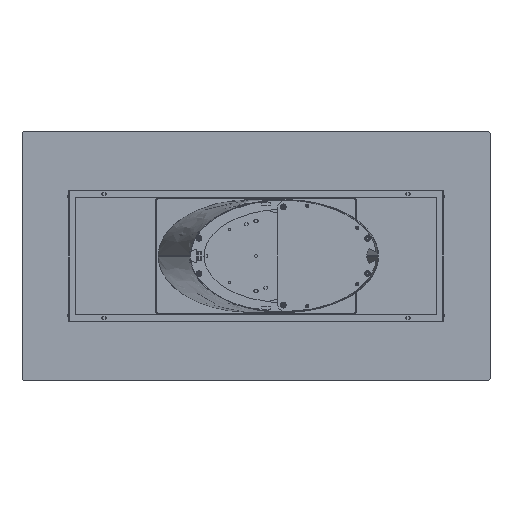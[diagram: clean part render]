
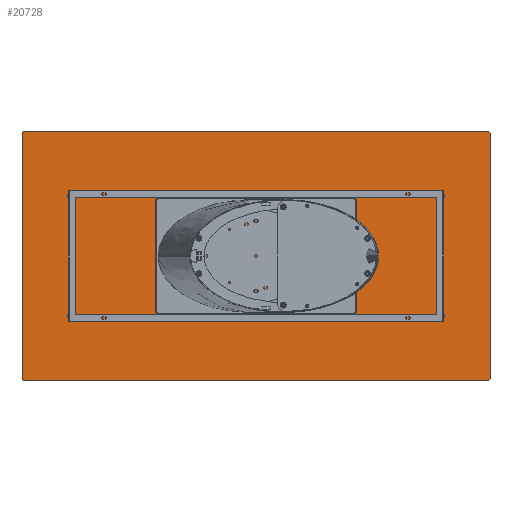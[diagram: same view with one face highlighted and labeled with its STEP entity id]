
A CAD part, front view. The second image highlights one B-rep face of the part: STEP entity #20728.
In plain terms, the highlighted planar face has unit normal (0, -1, 0).
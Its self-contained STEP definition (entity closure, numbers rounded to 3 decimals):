
#236 = VERTEX_POINT ( 'NONE', #3848 ) ;
#371 = DIRECTION ( 'NONE',  ( 0., 0., 1. ) ) ;
#914 = AXIS2_PLACEMENT_3D ( 'NONE', #20335, #9838, #22497 ) ;
#1444 = LINE ( 'NONE', #16247, #1559 ) ;
#1559 = VECTOR ( 'NONE', #19905, 1000. ) ;
#1853 = CARTESIAN_POINT ( 'NONE',  ( 995., 0., -525. ) ) ;
#2266 = VERTEX_POINT ( 'NONE', #18298 ) ;
#2764 = ORIENTED_EDGE ( 'NONE', *, *, #8703, .T. ) ;
#2922 = CIRCLE ( 'NONE', #12359, 5. ) ;
#3139 = CARTESIAN_POINT ( 'NONE',  ( 995., 0., -530. ) ) ;
#3211 = PLANE ( 'NONE',  #20136 ) ;
#3848 = CARTESIAN_POINT ( 'NONE',  ( -1000., 0., 525. ) ) ;
#4217 = CARTESIAN_POINT ( 'NONE',  ( -995., 0., 525. ) ) ;
#4964 = FACE_OUTER_BOUND ( 'NONE', #19092, .T. ) ;
#5227 = DIRECTION ( 'NONE',  ( 0., 0., 1. ) ) ;
#5534 = EDGE_CURVE ( 'NONE', #2266, #5758, #23539, .T. ) ;
#5758 = VERTEX_POINT ( 'NONE', #10025 ) ;
#5983 = CIRCLE ( 'NONE', #9428, 5. ) ;
#6425 = CARTESIAN_POINT ( 'NONE',  ( -1000., 0., -530. ) ) ;
#6970 = ORIENTED_EDGE ( 'NONE', *, *, #16775, .T. ) ;
#7504 = CARTESIAN_POINT ( 'NONE',  ( 995., 0., 530. ) ) ;
#8221 = VECTOR ( 'NONE', #24217, 1000. ) ;
#8233 = CARTESIAN_POINT ( 'NONE',  ( -995., 0., -530. ) ) ;
#8646 = VERTEX_POINT ( 'NONE', #8233 ) ;
#8703 = EDGE_CURVE ( 'NONE', #16931, #8646, #9083, .T. ) ;
#8917 = EDGE_CURVE ( 'NONE', #17034, #8646, #26235, .T. ) ;
#9083 = CIRCLE ( 'NONE', #914, 5. ) ;
#9270 = DIRECTION ( 'NONE',  ( 0., 1., 0. ) ) ;
#9428 = AXIS2_PLACEMENT_3D ( 'NONE', #20949, #25126, #14887 ) ;
#9541 = CARTESIAN_POINT ( 'NONE',  ( 1000., 0., -530. ) ) ;
#9553 = CIRCLE ( 'NONE', #21582, 5. ) ;
#9703 = VERTEX_POINT ( 'NONE', #7504 ) ;
#9804 = CARTESIAN_POINT ( 'NONE',  ( -1000., 0., -530. ) ) ;
#9838 = DIRECTION ( 'NONE',  ( 0., -1., 0. ) ) ;
#9962 = VERTEX_POINT ( 'NONE', #11248 ) ;
#10025 = CARTESIAN_POINT ( 'NONE',  ( 1000., 0., -525. ) ) ;
#11149 = EDGE_CURVE ( 'NONE', #17034, #5758, #2922, .T. ) ;
#11248 = CARTESIAN_POINT ( 'NONE',  ( -995., 0., 530. ) ) ;
#11251 = EDGE_CURVE ( 'NONE', #16931, #236, #16647, .T. ) ;
#12330 = DIRECTION ( 'NONE',  ( 0., -1., 0. ) ) ;
#12359 = AXIS2_PLACEMENT_3D ( 'NONE', #1853, #12330, #18414 ) ;
#13355 = EDGE_CURVE ( 'NONE', #2266, #9703, #5983, .T. ) ;
#14258 = ORIENTED_EDGE ( 'NONE', *, *, #8917, .F. ) ;
#14555 = ORIENTED_EDGE ( 'NONE', *, *, #22865, .F. ) ;
#14887 = DIRECTION ( 'NONE',  ( 0., 0., 1. ) ) ;
#15705 = DIRECTION ( 'NONE',  ( 0., 0., -1. ) ) ;
#16247 = CARTESIAN_POINT ( 'NONE',  ( -1000., 0., 530. ) ) ;
#16352 = CARTESIAN_POINT ( 'NONE',  ( -1000., 0., -525. ) ) ;
#16647 = LINE ( 'NONE', #6425, #26556 ) ;
#16775 = EDGE_CURVE ( 'NONE', #9962, #236, #9553, .T. ) ;
#16847 = ORIENTED_EDGE ( 'NONE', *, *, #13355, .T. ) ;
#16882 = DIRECTION ( 'NONE',  ( 0., 0., 1. ) ) ;
#16931 = VERTEX_POINT ( 'NONE', #16352 ) ;
#17034 = VERTEX_POINT ( 'NONE', #3139 ) ;
#18298 = CARTESIAN_POINT ( 'NONE',  ( 1000., 0., 525. ) ) ;
#18414 = DIRECTION ( 'NONE',  ( 0., 0., 1. ) ) ;
#18587 = ORIENTED_EDGE ( 'NONE', *, *, #11149, .T. ) ;
#19092 = EDGE_LOOP ( 'NONE', ( #26253, #16847, #14555, #6970, #24627, #2764, #14258, #18587 ) ) ;
#19905 = DIRECTION ( 'NONE',  ( 1., 0., 0. ) ) ;
#19914 = CARTESIAN_POINT ( 'NONE',  ( 0., 0., 0. ) ) ;
#20136 = AXIS2_PLACEMENT_3D ( 'NONE', #19914, #9270, #5227 ) ;
#20335 = CARTESIAN_POINT ( 'NONE',  ( -995., 0., -525. ) ) ;
#20728 = ADVANCED_FACE ( 'NONE', ( #4964 ), #3211, .F. ) ;
#20949 = CARTESIAN_POINT ( 'NONE',  ( 995., 0., 525. ) ) ;
#21582 = AXIS2_PLACEMENT_3D ( 'NONE', #4217, #24962, #16882 ) ;
#22497 = DIRECTION ( 'NONE',  ( 0., 0., 1. ) ) ;
#22865 = EDGE_CURVE ( 'NONE', #9962, #9703, #1444, .T. ) ;
#23539 = LINE ( 'NONE', #9541, #24748 ) ;
#24217 = DIRECTION ( 'NONE',  ( -1., 0., 0. ) ) ;
#24627 = ORIENTED_EDGE ( 'NONE', *, *, #11251, .F. ) ;
#24748 = VECTOR ( 'NONE', #15705, 1000. ) ;
#24962 = DIRECTION ( 'NONE',  ( 0., -1., 0. ) ) ;
#25126 = DIRECTION ( 'NONE',  ( 0., -1., 0. ) ) ;
#26235 = LINE ( 'NONE', #9804, #8221 ) ;
#26253 = ORIENTED_EDGE ( 'NONE', *, *, #5534, .F. ) ;
#26556 = VECTOR ( 'NONE', #371, 1000. ) ;
